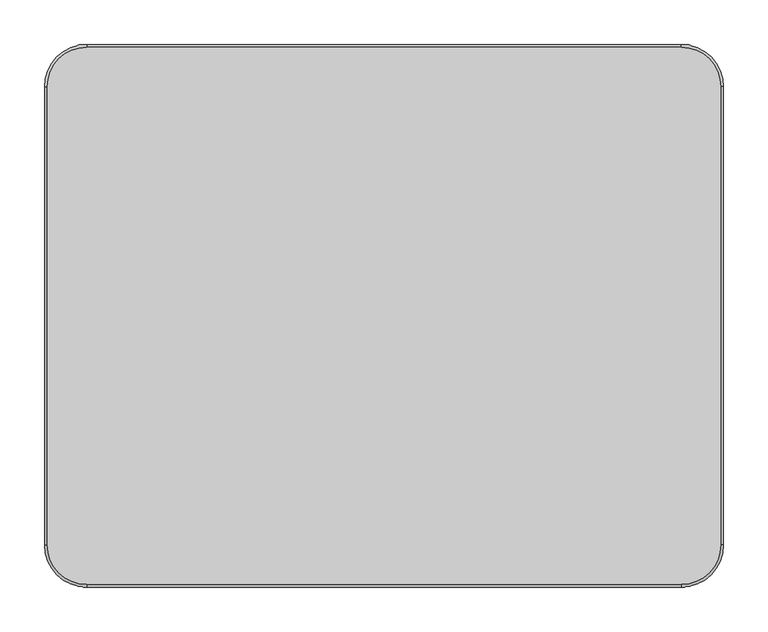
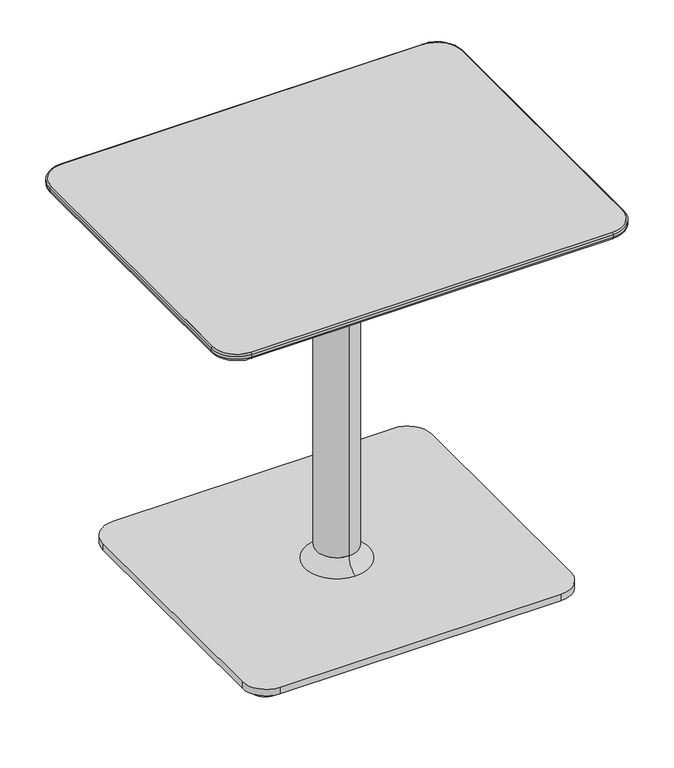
"""IFC4 building model written with IfcOpenShell, lengths in millimetres: furniture geometry, Coalesse_AM_Table_Occasional_Lagunitas_Work : 28.5H x 24D x 30W."""

from ifc_helpers import new_model, si_unit, point, frame, frame_2d, origin, origin_with_axes, place, context, project, spatial, polyline, circle_curve, ellipse_curve, trimmed, segment, composite_curve, outline, extrude, source, transform, mapped, element, save
from ifc_brep_helpers import plane_surface, cylinder_surface, revolved_surface, spline_surface, advanced_brep


def furniture_f20d2360(model_context):
    return source(origin(), model_context, "Body", "SolidModel", [
        advanced_brep(
        [(378.2570059, 257.3038988, 711.8724172), (333.8070059, 301.7538988, 711.8724172), (-333.1969941, 301.7538988, 711.8724172), (-377.6469941, 257.3038988, 711.8724172), (-377.6469941, -257.3038988, 711.8724172), (-333.1969941, -301.7538988, 711.8724172), (333.8070059, -301.7538988, 711.8724172), (378.2570059, -257.3038988, 711.8724172), (310.4389826, 233.9365202, 693.8099277), (310.4389826, -233.9365202, 693.8099277), (-309.8289709, -233.9365202, 693.8099277), (-309.8289709, 233.9365202, 693.8099277)],
        [
            (0, 1, circle_curve(frame((333.8070059, 257.3038988, 711.8724172), z_axis=(0.0, 0.0, 1.0), x_axis=(1.0, 0.0, 0.0)), 44.45)),
            (1, 2),
            (2, 3, circle_curve(frame((-333.1969941, 257.3038988, 711.8724172), z_axis=(0.0, 0.0, 1.0), x_axis=(1.0, 0.0, 0.0)), 44.45)),
            (3, 4),
            (4, 5, circle_curve(frame((-333.1969941, -257.3038988, 711.8724172), z_axis=(0.0, 0.0, 1.0), x_axis=(1.0, 0.0, 0.0)), 44.45)),
            (5, 6),
            (6, 7, circle_curve(frame((333.8070059, -257.3038988, 711.8724172), z_axis=(0.0, 0.0, 1.0), x_axis=(1.0, 0.0, 0.0)), 44.45)),
            (7, 0),
            (8, 9),
            (9, 10),
            (10, 11),
            (11, 8),
            (0, 8),
            (8, 1),
            (11, 2),
            (11, 3),
            (10, 4),
            (10, 5),
            (9, 6),
            (9, 7),
        ],
        [
            plane_surface(frame((0.3050059, 0.0, 711.8724172), z_axis=(0.0, 0.0, 1.0), x_axis=(-1.0, 0.0, 0.0))),
            plane_surface(frame((0.3050059, 0.0, 693.8099277), z_axis=(0.0, 0.0, -1.0), x_axis=(-1.0, 0.0, 0.0))),
            spline_surface(2, 1, [[(310.4389826, 233.9365202, 693.8099277), (378.2570059, 257.3038988, 711.8724172)], [(310.4389826, 233.9365202, 693.8099277), (378.2570059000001, 301.75389880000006, 711.8724172)], [(310.4389826, 233.9365202, 693.8099277), (333.8070059, 301.7538988, 711.8724172)]], [3, 3], [2, 2], [0.0, 1.0], [0.0, 1.0], weights=[[1.0, 1.0], [0.7071067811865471, 0.7071067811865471], [1.0, 1.0]]),
            plane_surface(frame((0.3050059, 233.9365202, 693.8099277), z_axis=(0.0, 0.25736805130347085, -0.9663134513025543), x_axis=(-1.0, 0.0, 0.0))),
            spline_surface(2, 1, [[(-309.8289709, 233.9365202, 693.8099277), (-333.1969941, 301.7538988, 711.8724172)], [(-309.8289709, 233.9365202, 693.8099277), (-377.6469941, 301.7538988, 711.8724172)], [(-309.8289709, 233.9365202, 693.8099277), (-377.6469941, 257.3038988, 711.8724172)]], [3, 3], [2, 2], [0.0, 1.0], [0.0, 1.0], weights=[[1.0, 1.0], [0.7071067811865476, 0.7071067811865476], [1.0, 1.0]]),
            plane_surface(frame((-309.8289709, 0.0, 693.8099277), z_axis=(-0.25736576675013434, 0.0, -0.9663140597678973), x_axis=(0.0, -1.0, 0.0))),
            spline_surface(2, 1, [[(-309.8289709, -233.9365202, 693.8099277), (-377.6469941, -257.3038988, 711.8724172)], [(-309.8289709, -233.9365202, 693.8099277), (-377.6469941, -301.7538988, 711.8724172)], [(-309.8289709, -233.9365202, 693.8099277), (-333.1969941, -301.7538988, 711.8724172)]], [3, 3], [2, 2], [0.0, 1.0], [0.0, 1.0], weights=[[1.0, 1.0], [0.7071067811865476, 0.7071067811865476], [1.0, 1.0]]),
            plane_surface(frame((0.3050059, -233.9365202, 693.8099277), z_axis=(0.0, -0.2573680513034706, -0.9663134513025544), x_axis=(1.0, 0.0, 0.0))),
            spline_surface(2, 1, [[(310.4389826, -233.9365202, 693.8099277), (333.8070059, -301.7538988, 711.8724172)], [(310.4389826, -233.9365202, 693.8099277), (378.25700589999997, -301.75389879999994, 711.8724172)], [(310.4389826, -233.9365202, 693.8099277), (378.2570059, -257.3038988, 711.8724172)]], [3, 3], [2, 2], [0.0, 1.0], [0.0, 1.0], weights=[[1.0, 1.0], [0.707106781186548, 0.707106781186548], [1.0, 1.0]]),
            plane_surface(frame((310.4389826, 0.0, 693.8099277), z_axis=(0.25736576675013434, 0.0, -0.9663140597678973), x_axis=(0.0, 1.0, 0.0))),
        ],
        [
            (0, [[1, 2, 3, 4, 5, 6, 7, 8]]),
            (1, [[9, 10, 11, 12]]),
            (2, [[-1, 13, 14]]),
            (3, [[-12, 15, -2, -14]]),
            (4, [[-3, -15, 16]]),
            (5, [[-11, 17, -4, -16]]),
            (6, [[-5, -17, 18]]),
            (7, [[-10, 19, -6, -18]]),
            (8, [[-7, -19, 20]]),
            (9, [[-9, -13, -8, -20]]),
        ],
    ),
        extrude(outline(composite_curve([segment(trimmed(circle_curve(frame_2d((333.8070059, 257.3038988)), 44.45), [point((333.8070059, 301.7538988))], [point((378.2570059, 257.3038988))], False, "CARTESIAN"), True, "CONTINUOUS"), segment(polyline([(378.2570059, 257.3038988), (378.2570059, -257.3038988)]), True, "CONTINUOUS"), segment(trimmed(circle_curve(frame_2d((333.8070059, -257.3038988)), 44.45), [point((378.2570059, -257.3038988))], [point((333.8070059, -301.7538988))], False, "CARTESIAN"), True, "CONTINUOUS"), segment(polyline([(333.8070059, -301.7538988), (-333.1969941, -301.7538988)]), True, "CONTINUOUS"), segment(trimmed(circle_curve(frame_2d((-333.1969941, -257.3038988)), 44.45), [point((-333.1969941, -301.7538988))], [point((-377.6469941, -257.3038988))], False, "CARTESIAN"), True, "CONTINUOUS"), segment(polyline([(-377.6469941, -257.3038988), (-377.6469941, 257.3038988)]), True, "CONTINUOUS"), segment(trimmed(circle_curve(frame_2d((-333.1969941, 257.3038988)), 44.45), [point((-377.6469941, 257.3038988))], [point((-333.1969941, 301.7538988))], False, "CARTESIAN"), True, "CONTINUOUS"), segment(polyline([(-333.1969941, 301.7538988), (333.8070059, 301.7538988)]), True, "CONTINUOUS")], self_intersect=False)), frame((0.0, 0.0, 711.8724172), z_axis=(0.0, 0.0, 1.0), x_axis=(1.0, 0.0, 0.0)), (0.0, 0.0, 1.0), 12.0275828),
        extrude(outline(composite_curve([segment(trimmed(circle_curve(frame_2d((-263.0703146, 226.8029495)), 25.4), [point((-288.4703146, 226.8029495))], [point((-237.6703146, 226.8029495))], False, "CARTESIAN"), True, "CONTINUOUS"), segment(trimmed(circle_curve(frame_2d((-263.0703146, 226.8029495)), 25.4), [point((-237.6703146, 226.8029495))], [point((-288.4703146, 226.8029495))], False, "CARTESIAN"), True, "CONTINUOUS")], self_intersect=False)), origin_with_axes(), (0.0, 0.0, 1.0), 10.6571495),
        extrude(outline(composite_curve([segment(trimmed(circle_curve(frame_2d((263.6803263, 226.8029495)), 25.4), [point((238.2803263, 226.8029495))], [point((289.0803263, 226.8029495))], False, "CARTESIAN"), True, "CONTINUOUS"), segment(trimmed(circle_curve(frame_2d((263.6803263, 226.8029495)), 25.4), [point((289.0803263, 226.8029495))], [point((238.2803263, 226.8029495))], False, "CARTESIAN"), True, "CONTINUOUS")], self_intersect=False)), origin_with_axes(), (0.0, 0.0, 1.0), 10.6571495),
        extrude(outline(composite_curve([segment(trimmed(circle_curve(frame_2d((263.6803263, -226.8029495)), 25.4), [point((238.2803263, -226.8029495))], [point((289.0803263, -226.8029495))], False, "CARTESIAN"), True, "CONTINUOUS"), segment(trimmed(circle_curve(frame_2d((263.6803263, -226.8029495)), 25.4), [point((289.0803263, -226.8029495))], [point((238.2803263, -226.8029495))], False, "CARTESIAN"), True, "CONTINUOUS")], self_intersect=False)), origin_with_axes(), (0.0, 0.0, 1.0), 10.6571495),
        extrude(outline(composite_curve([segment(trimmed(circle_curve(frame_2d((-263.0703146, -226.8029495)), 25.4), [point((-288.4703146, -226.8029495))], [point((-237.6703146, -226.8029495))], False, "CARTESIAN"), True, "CONTINUOUS"), segment(trimmed(circle_curve(frame_2d((-263.0703146, -226.8029495)), 25.4), [point((-237.6703146, -226.8029495))], [point((-288.4703146, -226.8029495))], False, "CARTESIAN"), True, "CONTINUOUS")], self_intersect=False)), origin_with_axes(), (0.0, 0.0, 1.0), 10.6571495),
        extrude(outline(composite_curve([segment(trimmed(circle_curve(frame_2d((259.1310059, 222.2481833)), 44.45), [point((259.1310059, 266.6981833))], [point((303.5810059, 222.2481833))], False, "CARTESIAN"), True, "CONTINUOUS"), segment(polyline([(303.5810059, 222.2481833), (303.5810059, -222.2481833)]), True, "CONTINUOUS"), segment(trimmed(circle_curve(frame_2d((259.1310059, -222.2481833)), 44.45), [point((303.5810059, -222.2481833))], [point((259.1310059, -266.6981833))], False, "CARTESIAN"), True, "CONTINUOUS"), segment(polyline([(259.1310059, -266.6981833), (-258.5209941, -266.6981833)]), True, "CONTINUOUS"), segment(trimmed(circle_curve(frame_2d((-258.5209941, -222.2481833)), 44.45), [point((-258.5209941, -266.6981833))], [point((-302.9709941, -222.2481833))], False, "CARTESIAN"), True, "CONTINUOUS"), segment(polyline([(-302.9709941, -222.2481833), (-302.9709941, 222.2481833)]), True, "CONTINUOUS"), segment(trimmed(circle_curve(frame_2d((-258.5209941, 222.2481833)), 44.45), [point((-302.9709941, 222.2481833))], [point((-258.5209941, 266.6981833))], False, "CARTESIAN"), True, "CONTINUOUS"), segment(polyline([(-258.5209941, 266.6981833), (259.1310059, 266.6981833)]), True, "CONTINUOUS")], self_intersect=False)), frame((0.0, 0.0, 10.6571495), z_axis=(0.0, 0.0, 1.0), x_axis=(1.0, 0.0, 0.0)), (0.0, 0.0, 1.0), 12.7000004),
        advanced_brep(
        [(-380.6930954, 257.3038988, 715.6656816), (-333.1969941, 304.8, 715.6656816), (-333.1969941, 301.7538988, 711.8724172), (-377.6469941, 257.3038988, 711.8724172), (-380.6930954, 257.3038988, 720.8538988), (-333.1969941, 304.8, 720.8538988), (-377.6469941, 257.3038988, 723.9), (-333.1969941, 301.7538988, 723.9), (-377.6469941, -257.3038988, 711.8724172), (-380.6930954, -257.3038988, 715.6656816), (-380.6930954, -257.3038988, 720.8538988), (-377.6469941, -257.3038988, 723.9), (-333.1969941, -304.8, 715.6656816), (-333.1969941, -301.7538988, 711.8724172), (-333.1969941, -304.8, 720.8538988), (-333.1969941, -301.7538988, 723.9), (333.8070059, -301.7538988, 711.8724172), (333.8070059, -304.8, 715.6656816), (333.8070059, -304.8, 720.8538988), (333.8070059, -301.7538988, 723.9), (381.3031071, -257.3038988, 715.6656816), (378.2570059, -257.3038988, 711.8724172), (381.3031071, -257.3038988, 720.8538988), (378.2570059, -257.3038988, 723.9), (378.2570059, 257.3038988, 711.8724172), (381.3031071, 257.3038988, 715.6656816), (381.3031071, 257.3038988, 720.8538988), (378.2570059, 257.3038988, 723.9), (333.8070059, 304.8, 715.6656816), (333.8070059, 301.7538988, 711.8724172), (333.8070059, 304.8, 720.8538988), (333.8070059, 301.7538988, 723.9)],
        [
            (0, 1, circle_curve(frame((-333.1969941, 257.3038988, 715.6656816), z_axis=(0.0, 0.0, -1.0), x_axis=(0.0, 1.0, 0.0)), 47.4961012)),
            (1, 2, circle_curve(frame((-333.1969941, 300.9151017, 715.6656816), z_axis=(-1.0, 0.0, 0.0), x_axis=(0.0, -1.0, 0.0)), 3.8848983)),
            (2, 3, circle_curve(frame((-333.1969941, 257.3038988, 711.8724172), z_axis=(0.0, 0.0, 1.0), x_axis=(0.0, 1.0, 0.0)), 44.45)),
            (3, 0, circle_curve(frame((-376.8081971, 257.3038988, 715.6656816), z_axis=(0.0, 1.0, 0.0), x_axis=(1.0, 0.0, 0.0)), 3.8848983)),
            (4, 5, circle_curve(frame((-333.1969941, 257.3038988, 720.8538988), z_axis=(0.0, 0.0, -1.0), x_axis=(0.0, 1.0, 0.0)), 47.4961012)),
            (5, 1),
            (0, 4),
            (6, 7, circle_curve(frame((-333.1969941, 257.3038988, 723.9), z_axis=(0.0, 0.0, -1.0), x_axis=(0.0, 1.0, 0.0)), 44.45)),
            (7, 5, circle_curve(frame((-333.1969941, 301.7538988, 720.8538988), z_axis=(-1.0, 0.0, 0.0), x_axis=(0.0, -1.0, 0.0)), 3.0461012)),
            (4, 6, circle_curve(frame((-377.6469941, 257.3038988, 720.8538988), z_axis=(0.0, 1.0, 0.0), x_axis=(1.0, 0.0, 0.0)), 3.0461012)),
            (2, 7),
            (6, 3),
            (3, 8),
            (8, 9, circle_curve(frame((-376.8081971, -257.3038988, 715.6656816), z_axis=(0.0, 1.0, 0.0), x_axis=(1.0, 0.0, 0.0)), 3.8848983)),
            (9, 0),
            (9, 10),
            (10, 4),
            (10, 11, circle_curve(frame((-377.6469941, -257.3038988, 720.8538988), z_axis=(0.0, 1.0, 0.0), x_axis=(1.0, 0.0, 0.0)), 3.0461012)),
            (11, 6),
            (11, 8),
            (12, 9, circle_curve(frame((-333.1969941, -257.3038988, 715.6656816), z_axis=(0.0, 0.0, -1.0), x_axis=(-1.0, 0.0, 0.0)), 47.4961012)),
            (8, 13, circle_curve(frame((-333.1969941, -257.3038988, 711.8724172), z_axis=(0.0, 0.0, 1.0), x_axis=(-1.0, 0.0, 0.0)), 44.45)),
            (13, 12, circle_curve(frame((-333.1969941, -300.9151017, 715.6656816), z_axis=(-1.0, 0.0, 0.0), x_axis=(0.0, 1.0, 0.0)), 3.8848983)),
            (14, 10, circle_curve(frame((-333.1969941, -257.3038988, 720.8538988), z_axis=(0.0, 0.0, -1.0), x_axis=(-1.0, 0.0, 0.0)), 47.4961012)),
            (12, 14),
            (15, 11, circle_curve(frame((-333.1969941, -257.3038988, 723.9), z_axis=(0.0, 0.0, -1.0), x_axis=(-1.0, 0.0, 0.0)), 44.45)),
            (14, 15, circle_curve(frame((-333.1969941, -301.7538988, 720.8538988), z_axis=(-1.0, 0.0, 0.0), x_axis=(0.0, 1.0, 0.0)), 3.0461012)),
            (15, 13),
            (13, 16),
            (16, 17, circle_curve(frame((333.8070059, -300.9151017, 715.6656816), z_axis=(-1.0, 0.0, 0.0), x_axis=(0.0, 1.0, 0.0)), 3.8848983)),
            (17, 12),
            (17, 18),
            (18, 14),
            (18, 19, circle_curve(frame((333.8070059, -301.7538988, 720.8538988), z_axis=(-1.0, 0.0, 0.0), x_axis=(0.0, 1.0, 0.0)), 3.0461012)),
            (19, 15),
            (19, 16),
            (20, 17, circle_curve(frame((333.8070059, -257.3038988, 715.6656816), z_axis=(0.0, 0.0, -1.0), x_axis=(0.0, -1.0, 0.0)), 47.4961012)),
            (16, 21, circle_curve(frame((333.8070059, -257.3038988, 711.8724172), z_axis=(0.0, 0.0, 1.0), x_axis=(0.0, -1.0, 0.0)), 44.45)),
            (21, 20, circle_curve(frame((377.4182088, -257.3038988, 715.6656816), z_axis=(0.0, -1.0, 0.0), x_axis=(-1.0, 0.0, 0.0)), 3.8848983)),
            (22, 18, circle_curve(frame((333.8070059, -257.3038988, 720.8538988), z_axis=(0.0, 0.0, -1.0), x_axis=(0.0, -1.0, 0.0)), 47.4961012)),
            (20, 22),
            (23, 19, circle_curve(frame((333.8070059, -257.3038988, 723.9), z_axis=(0.0, 0.0, -1.0), x_axis=(0.0, -1.0, 0.0)), 44.45)),
            (22, 23, circle_curve(frame((378.2570059, -257.3038988, 720.8538988), z_axis=(0.0, -1.0, 0.0), x_axis=(-1.0, 0.0, 0.0)), 3.0461012)),
            (23, 21),
            (21, 24),
            (24, 25, circle_curve(frame((377.4182088, 257.3038988, 715.6656816), z_axis=(0.0, -1.0, 0.0), x_axis=(-1.0, 0.0, 0.0)), 3.8848983)),
            (25, 20),
            (25, 26),
            (26, 22),
            (26, 27, circle_curve(frame((378.2570059, 257.3038988, 720.8538988), z_axis=(0.0, -1.0, 0.0), x_axis=(-1.0, 0.0, 0.0)), 3.0461012)),
            (27, 23),
            (27, 24),
            (28, 25, circle_curve(frame((333.8070059, 257.3038988, 715.6656816), z_axis=(0.0, 0.0, -1.0), x_axis=(1.0, 0.0, 0.0)), 47.4961012)),
            (24, 29, circle_curve(frame((333.8070059, 257.3038988, 711.8724172), z_axis=(0.0, 0.0, 1.0), x_axis=(1.0, 0.0, 0.0)), 44.45)),
            (29, 28, circle_curve(frame((333.8070059, 300.9151017, 715.6656816), z_axis=(1.0, 0.0, 0.0), x_axis=(0.0, -1.0, 0.0)), 3.8848983)),
            (30, 26, circle_curve(frame((333.8070059, 257.3038988, 720.8538988), z_axis=(0.0, 0.0, -1.0), x_axis=(1.0, 0.0, 0.0)), 47.4961012)),
            (28, 30),
            (31, 27, circle_curve(frame((333.8070059, 257.3038988, 723.9), z_axis=(0.0, 0.0, -1.0), x_axis=(1.0, 0.0, 0.0)), 44.45)),
            (30, 31, circle_curve(frame((333.8070059, 301.7538988, 720.8538988), z_axis=(1.0, 0.0, 0.0), x_axis=(0.0, -1.0, 0.0)), 3.0461012)),
            (31, 29),
            (29, 2),
            (1, 28),
            (5, 30),
            (7, 31),
        ],
        [
            revolved_surface(trimmed(ellipse_curve(frame((-333.1969941, 300.9151017, 715.6656816), z_axis=(1.0, 0.0, 0.0), x_axis=(0.0, -1.0, 0.0)), 3.8848983, 3.8848983), [point((-333.1969941, 301.7538988, 711.8724172))], [point((-333.1969941, 304.8, 715.6656816))], True, "CARTESIAN"), (-333.1969941, 257.3038988, 0.0), (0.0, 0.0, 1.0)),
            cylinder_surface(frame((-333.1969941, 257.3038988, 0.0), z_axis=(0.0, 0.0, 1.0), x_axis=(0.0, 1.0, 0.0)), 47.4961012),
            revolved_surface(trimmed(ellipse_curve(frame((-333.1969941, 301.7538988, 720.8538988), z_axis=(1.0, 0.0, 0.0), x_axis=(0.0, -1.0, 0.0)), 3.0461012, 3.0461012), [point((-333.1969941, 304.8, 720.8538988))], [point((-333.1969941, 301.7538988, 723.9))], True, "CARTESIAN"), (-333.1969941, 257.3038988, 0.0), (0.0, 0.0, 1.0)),
            revolved_surface(polyline([(-333.1969941, 301.7538988, 723.9), (-333.1969941, 301.7538988, 711.8724172)]), (-333.1969941, 257.3038988, 0.0), (0.0, 0.0, 1.0)),
            cylinder_surface(frame((-376.8081971, 257.3038988, 715.6656816), z_axis=(0.0, 1.0, 0.0), x_axis=(1.0, 0.0, 0.0)), 3.8848983),
            plane_surface(frame((-380.6930954, 257.3038988, 715.6656816), z_axis=(-1.0, 0.0, 0.0), x_axis=(0.0, -1.0, 0.0))),
            cylinder_surface(frame((-377.6469941, 257.3038988, 720.8538988), z_axis=(0.0, 1.0, 0.0), x_axis=(1.0, 0.0, 0.0)), 3.0461012),
            plane_surface(frame((-377.6469941, 257.3038988, 723.9), z_axis=(1.0, 0.0, 0.0), x_axis=(0.0, -1.0, 0.0))),
            revolved_surface(trimmed(ellipse_curve(frame((-376.8081971, -257.3038988, 715.6656816), z_axis=(0.0, 1.0, 0.0), x_axis=(1.0, 0.0, 0.0)), 3.8848983, 3.8848983), [point((-377.6469941, -257.3038988, 711.8724172))], [point((-380.6930954, -257.3038988, 715.6656816))], True, "CARTESIAN"), (-333.1969941, -257.3038988, 0.0), (0.0, 0.0, 1.0)),
            cylinder_surface(frame((-333.1969941, -257.3038988, 0.0), z_axis=(0.0, 0.0, 1.0), x_axis=(-1.0, 0.0, 0.0)), 47.4961012),
            revolved_surface(trimmed(ellipse_curve(frame((-377.6469941, -257.3038988, 720.8538988), z_axis=(0.0, 1.0, 0.0), x_axis=(1.0, 0.0, 0.0)), 3.0461012, 3.0461012), [point((-380.6930954, -257.3038988, 720.8538988))], [point((-377.6469941, -257.3038988, 723.9))], True, "CARTESIAN"), (-333.1969941, -257.3038988, 0.0), (0.0, 0.0, 1.0)),
            revolved_surface(polyline([(-377.6469941, -257.3038988, 723.9), (-377.6469941, -257.3038988, 711.8724172)]), (-333.1969941, -257.3038988, 0.0), (0.0, 0.0, 1.0)),
            cylinder_surface(frame((-333.1969941, -300.9151017, 715.6656816), z_axis=(-1.0, 0.0, 0.0), x_axis=(0.0, 1.0, 0.0)), 3.8848983),
            plane_surface(frame((-333.1969941, -304.8, 715.6656816), z_axis=(0.0, -1.0, 0.0), x_axis=(1.0, 0.0, 0.0))),
            cylinder_surface(frame((-333.1969941, -301.7538988, 720.8538988), z_axis=(-1.0, 0.0, 0.0), x_axis=(0.0, 1.0, 0.0)), 3.0461012),
            plane_surface(frame((-333.1969941, -301.7538988, 723.9), z_axis=(0.0, 1.0, 0.0), x_axis=(1.0, 0.0, 0.0))),
            revolved_surface(trimmed(ellipse_curve(frame((333.8070059, -300.9151017, 715.6656816), z_axis=(-1.0, 0.0, 0.0), x_axis=(0.0, 1.0, 0.0)), 3.8848983, 3.8848983), [point((333.8070059, -301.7538988, 711.8724172))], [point((333.8070059, -304.8, 715.6656816))], True, "CARTESIAN"), (333.8070059, -257.3038988, 0.0), (0.0, 0.0, 1.0)),
            cylinder_surface(frame((333.8070059, -257.3038988, 0.0), z_axis=(0.0, 0.0, 1.0), x_axis=(0.0, -1.0, 0.0)), 47.4961012),
            revolved_surface(trimmed(ellipse_curve(frame((333.8070059, -301.7538988, 720.8538988), z_axis=(-1.0, 0.0, 0.0), x_axis=(0.0, 1.0, 0.0)), 3.0461012, 3.0461012), [point((333.8070059, -304.8, 720.8538988))], [point((333.8070059, -301.7538988, 723.9))], True, "CARTESIAN"), (333.8070059, -257.3038988, 0.0), (0.0, 0.0, 1.0)),
            revolved_surface(polyline([(333.8070059, -301.7538988, 723.9), (333.8070059, -301.7538988, 711.8724172)]), (333.8070059, -257.3038988, 0.0), (0.0, 0.0, 1.0)),
            cylinder_surface(frame((377.4182088, -257.3038988, 715.6656816), z_axis=(0.0, -1.0, 0.0), x_axis=(-1.0, 0.0, 0.0)), 3.8848983),
            plane_surface(frame((381.3031071, -257.3038988, 715.6656816), z_axis=(1.0, 0.0, 0.0), x_axis=(0.0, 1.0, 0.0))),
            cylinder_surface(frame((378.2570059, -257.3038988, 720.8538988), z_axis=(0.0, -1.0, 0.0), x_axis=(-1.0, 0.0, 0.0)), 3.0461012),
            plane_surface(frame((378.2570059, -257.3038988, 723.9), z_axis=(-1.0, 0.0, 0.0), x_axis=(0.0, 1.0, 0.0))),
            revolved_surface(trimmed(ellipse_curve(frame((377.4182088, 257.3038988, 715.6656816), z_axis=(0.0, -1.0, 0.0), x_axis=(-1.0, 0.0, 0.0)), 3.8848983, 3.8848983), [point((378.2570059, 257.3038988, 711.8724172))], [point((381.3031071, 257.3038988, 715.6656816))], True, "CARTESIAN"), (333.8070059, 257.3038988, 0.0), (0.0, 0.0, 1.0)),
            cylinder_surface(frame((333.8070059, 257.3038988, 0.0), z_axis=(0.0, 0.0, 1.0), x_axis=(1.0, 0.0, 0.0)), 47.4961012),
            revolved_surface(trimmed(ellipse_curve(frame((378.2570059, 257.3038988, 720.8538988), z_axis=(0.0, -1.0, 0.0), x_axis=(-1.0, 0.0, 0.0)), 3.0461012, 3.0461012), [point((381.3031071, 257.3038988, 720.8538988))], [point((378.2570059, 257.3038988, 723.9))], True, "CARTESIAN"), (333.8070059, 257.3038988, 0.0), (0.0, 0.0, 1.0)),
            revolved_surface(polyline([(378.25700589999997, 257.3038988, 723.9), (378.25700589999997, 257.3038988, 711.8724172)]), (333.8070059, 257.3038988, 0.0), (0.0, 0.0, 1.0)),
            cylinder_surface(frame((333.8070059, 300.9151017, 715.6656816), z_axis=(1.0, 0.0, 0.0), x_axis=(0.0, -1.0, 0.0)), 3.8848983),
            plane_surface(frame((333.8070059, 304.8, 715.6656816), z_axis=(0.0, 1.0, 0.0), x_axis=(-1.0, 0.0, 0.0))),
            cylinder_surface(frame((333.8070059, 301.7538988, 720.8538988), z_axis=(1.0, 0.0, 0.0), x_axis=(0.0, -1.0, 0.0)), 3.0461012),
            plane_surface(frame((333.8070059, 301.7538988, 723.9), z_axis=(0.0, -1.0, 0.0), x_axis=(-1.0, 0.0, 0.0))),
        ],
        [
            (0, [[1, 2, 3, 4]]),
            (1, [[5, 6, -1, 7]]),
            (2, [[8, 9, -5, 10]]),
            (3, [[-3, 11, -8, 12]]),
            (4, [[-4, 13, 14, 15]]),
            (5, [[-7, -15, 16, 17]]),
            (6, [[-10, -17, 18, 19]]),
            (7, [[-12, -19, 20, -13]]),
            (8, [[21, -14, 22, 23]]),
            (9, [[24, -16, -21, 25]]),
            (10, [[26, -18, -24, 27]]),
            (11, [[-22, -20, -26, 28]]),
            (12, [[-23, 29, 30, 31]]),
            (13, [[-25, -31, 32, 33]]),
            (14, [[-27, -33, 34, 35]]),
            (15, [[-28, -35, 36, -29]]),
            (16, [[37, -30, 38, 39]]),
            (17, [[40, -32, -37, 41]]),
            (18, [[42, -34, -40, 43]]),
            (19, [[-38, -36, -42, 44]]),
            (20, [[-39, 45, 46, 47]]),
            (21, [[-41, -47, 48, 49]]),
            (22, [[-43, -49, 50, 51]]),
            (23, [[-44, -51, 52, -45]]),
            (24, [[53, -46, 54, 55]]),
            (25, [[56, -48, -53, 57]]),
            (26, [[58, -50, -56, 59]]),
            (27, [[-54, -52, -58, 60]]),
            (28, [[-55, 61, -2, 62]]),
            (29, [[-57, -62, -6, 63]]),
            (30, [[-59, -63, -9, 64]]),
            (31, [[-60, -64, -11, -61]]),
        ],
    ),
        advanced_brep(
        [(0.3050059, -37.9287895, 564.3567695), (0.3050059, 37.9287895, 564.3567695), (0.3050059, 37.9287895, 50.0429711), (0.3050059, -37.9287895, 50.0429711), (0.3050059, -59.3395816, 602.3698908), (0.3050059, 59.3395816, 602.3698908), (0.3050059, -197.9068019, 686.3534968), (0.3050059, 197.9068019, 686.3534968), (0.3050059, -212.4265152, 690.4101307), (0.3050059, 212.4265152, 690.4101307), (0.3050059, -226.4292749, 690.4101307), (0.3050059, 226.4292749, 690.4101307), (0.3050059, -228.4774392, 693.8099277), (0.3050059, 228.4774392, 693.8099277), (0.3050059, 0.0, 693.8099277), (0.3050059, -60.2304855, 23.3571499), (0.3050059, 60.2304855, 23.3571499), (0.3050059, 0.0, 23.3571499)],
        [
            (0, 1, circle_curve(frame((0.3050059, 0.0, 564.3567695), z_axis=(0.0, 0.0, -1.0), x_axis=(0.0, 1.0, 0.0)), 37.9287895)),
            (1, 2),
            (2, 3, circle_curve(frame((0.3050059, 0.0, 50.0429711), z_axis=(0.0, 0.0, 1.0), x_axis=(0.0, 1.0, 0.0)), 37.9287895)),
            (3, 0),
            (1, 0, circle_curve(frame((0.3050059, 0.0, 564.3567695), z_axis=(0.0, 0.0, -1.0), x_axis=(0.0, 1.0, 0.0)), 37.9287895)),
            (3, 2, circle_curve(frame((0.3050059, 0.0, 50.0429711), z_axis=(0.0, 0.0, 1.0), x_axis=(0.0, 1.0, 0.0)), 37.9287895)),
            (4, 5, circle_curve(frame((0.3050059, 0.0, 602.3698908), z_axis=(0.0, 0.0, -1.0), x_axis=(0.0, 1.0, 0.0)), 59.3395816)),
            (5, 1, circle_curve(frame((0.3050059, 82.3787895, 564.3567695), z_axis=(1.0, 0.0, 0.0), x_axis=(0.0, 1.0, 0.0)), 44.45)),
            (0, 4, circle_curve(frame((0.3050059, -82.3787895, 564.3567695), z_axis=(1.0, 0.0, 0.0), x_axis=(0.0, -1.0, 0.0)), 44.45)),
            (5, 4, circle_curve(frame((0.3050059, 0.0, 602.3698908), z_axis=(0.0, 0.0, -1.0), x_axis=(0.0, 1.0, 0.0)), 59.3395816)),
            (6, 7, circle_curve(frame((0.3050059, 0.0, 686.3534968), z_axis=(0.0, 0.0, -1.0), x_axis=(0.0, 1.0, 0.0)), 197.9068019)),
            (7, 5),
            (4, 6),
            (7, 6, circle_curve(frame((0.3050059, 0.0, 686.3534968), z_axis=(0.0, 0.0, -1.0), x_axis=(0.0, 1.0, 0.0)), 197.9068019)),
            (8, 9, circle_curve(frame((0.3050059, 0.0, 690.4101307), z_axis=(0.0, 0.0, -1.0), x_axis=(0.0, 1.0, 0.0)), 212.4265152)),
            (9, 7, circle_curve(frame((0.3050059, 212.4265152, 662.3969605), z_axis=(1.0, 0.0, 0.0), x_axis=(0.0, 1.0, 0.0)), 28.0131702)),
            (6, 8, circle_curve(frame((0.3050059, -212.4265152, 662.3969605), z_axis=(1.0, 0.0, 0.0), x_axis=(0.0, -1.0, 0.0)), 28.0131702)),
            (9, 8, circle_curve(frame((0.3050059, 0.0, 690.4101307), z_axis=(0.0, 0.0, -1.0), x_axis=(0.0, 1.0, 0.0)), 212.4265152)),
            (10, 11, circle_curve(frame((0.3050059, 0.0, 690.4101307), z_axis=(0.0, 0.0, -1.0), x_axis=(0.0, 1.0, 0.0)), 226.4292749)),
            (11, 9),
            (8, 10),
            (11, 10, circle_curve(frame((0.3050059, 0.0, 690.4101307), z_axis=(0.0, 0.0, -1.0), x_axis=(0.0, 1.0, 0.0)), 226.4292749)),
            (12, 13, circle_curve(frame((0.3050059, 0.0, 693.8099277), z_axis=(0.0, 0.0, -1.0), x_axis=(0.0, 1.0, 0.0)), 228.4774392)),
            (13, 11, circle_curve(frame((0.3050059, 226.4292749, 692.7269744), z_axis=(-1.0, 0.0, 0.0), x_axis=(0.0, 1.0, 0.0)), 2.3168437)),
            (10, 12, circle_curve(frame((0.3050059, -226.4292749, 692.7269744), z_axis=(-1.0, 0.0, 0.0), x_axis=(0.0, -1.0, 0.0)), 2.3168437)),
            (13, 12, circle_curve(frame((0.3050059, 0.0, 693.8099277), z_axis=(0.0, 0.0, -1.0), x_axis=(0.0, 1.0, 0.0)), 228.4774392)),
            (14, 13),
            (12, 14),
            (15, 16, circle_curve(frame((0.3050059, 0.0, 23.3571499), z_axis=(0.0, 0.0, -1.0), x_axis=(0.0, 1.0, 0.0)), 60.2304855)),
            (16, 17),
            (17, 15),
            (16, 15, circle_curve(frame((0.3050059, 0.0, 23.3571499), z_axis=(0.0, 0.0, -1.0), x_axis=(0.0, 1.0, 0.0)), 60.2304855)),
            (2, 16, circle_curve(frame((0.3050059, 65.045532, 50.0429711), z_axis=(1.0, 0.0, 0.0), x_axis=(0.0, 1.0, 0.0)), 27.1167425)),
            (15, 3, circle_curve(frame((0.3050059, -65.045532, 50.0429711), z_axis=(1.0, 0.0, 0.0), x_axis=(0.0, -1.0, 0.0)), 27.1167425)),
        ],
        [
            cylinder_surface(frame((0.3050059, 0.0, 801.7745102), z_axis=(0.0, 0.0, 1.0), x_axis=(0.0, 1.0, 0.0)), 37.9287895),
            revolved_surface(trimmed(ellipse_curve(frame((0.3050059, 82.3787895, 564.3567695), z_axis=(-1.0, 0.0, 0.0), x_axis=(0.0, 1.0, 0.0)), 44.45, 44.45), [point((0.3050059, 37.9287895, 564.3567695))], [point((0.3050059, 59.3395816, 602.3698908))], True, "CARTESIAN"), (0.3050059, 0.0, 801.7745102), (0.0, 0.0, 1.0)),
            revolved_surface(polyline([(0.3050059, 59.3395816, 602.3698908), (0.3050059, 197.9068019, 686.3534968)]), (0.3050059, 0.0, 801.7745102), (0.0, 0.0, 1.0)),
            revolved_surface(trimmed(ellipse_curve(frame((0.3050059, 212.4265152, 662.3969605), z_axis=(-1.0, 0.0, 0.0), x_axis=(0.0, 1.0, 0.0)), 28.0131702, 28.0131702), [point((0.3050059, 197.9068019, 686.3534968))], [point((0.3050059, 212.4265152, 690.4101307))], True, "CARTESIAN"), (0.3050059, 0.0, 801.7745102), (0.0, 0.0, 1.0)),
            plane_surface(frame((0.3050059, 0.0, 690.4101307), z_axis=(0.0, 0.0, -1.0), x_axis=(0.0, 1.0, 0.0))),
            revolved_surface(trimmed(ellipse_curve(frame((0.3050059, 226.4292749, 692.7269744), z_axis=(1.0, 0.0, 0.0), x_axis=(0.0, 1.0, 0.0)), 2.3168437, 2.3168437), [point((0.3050059, 226.4292749, 690.4101307))], [point((0.3050059, 228.4774392, 693.8099277))], True, "CARTESIAN"), (0.3050059, 0.0, 801.7745102), (0.0, 0.0, 1.0)),
            plane_surface(frame((0.3050059, 0.0, 693.8099277), z_axis=(0.0, 0.0, 1.0), x_axis=(0.0, 1.0, 0.0))),
            plane_surface(frame((0.3050059, 0.0, 23.3571499), z_axis=(0.0, 0.0, -1.0), x_axis=(0.0, 1.0, 0.0))),
            revolved_surface(trimmed(ellipse_curve(frame((0.3050059, 65.045532, 50.0429711), z_axis=(-1.0, 0.0, 0.0), x_axis=(0.0, 1.0, 0.0)), 27.1167425, 27.1167425), [point((0.3050059, 60.2304855, 23.3571499))], [point((0.3050059, 37.9287895, 50.0429711))], True, "CARTESIAN"), (0.3050059, 0.0, 801.7745102), (0.0, 0.0, 1.0)),
        ],
        [
            (0, [[1, 2, 3, 4]]),
            (0, [[5, -4, 6, -2]]),
            (1, [[7, 8, -1, 9]]),
            (1, [[10, -9, -5, -8]]),
            (2, [[11, 12, -7, 13]]),
            (2, [[14, -13, -10, -12]]),
            (3, [[15, 16, -11, 17]]),
            (3, [[18, -17, -14, -16]]),
            (4, [[19, 20, -15, 21]]),
            (4, [[22, -21, -18, -20]]),
            (5, [[23, 24, -19, 25]]),
            (5, [[26, -25, -22, -24]]),
            (6, [[27, -23, 28]]),
            (6, [[-28, -26, -27]]),
            (7, [[29, 30, 31]]),
            (7, [[32, -31, -30]]),
            (8, [[-3, 33, -29, 34]]),
            (8, [[-6, -34, -32, -33]]),
        ],
    ),
    ])


if __name__ == "__main__":
    model = new_model("IFC4")
    model_context = context("Model", 3, world=origin())
    ifc_project = project(units=[si_unit("LENGTHUNIT", "METRE", prefix="MILLI")], contexts=[model_context])
    site = spatial("IfcSite", under=ifc_project)
    building = spatial("IfcBuilding", under=site)
    placement = place(None, origin())
    furniture_shape = furniture_f20d2360(model_context)
    element("IfcFurniture", 1, ObjectType="Coalesse_AM_Table_Occasional_Lagunitas_Work : 28.5H x 24D x 30W", at=placement, inside=building, context=model_context, shape_type="MappedRepresentation", body=[
        mapped(furniture_shape, transform((0.0, 0.0, 0.0), x_axis=(1.0, 0.0, 0.0), y_axis=(0.0, 1.0, 0.0), z_axis=(0.0, 0.0, 1.0))),
    ])
    save(model, "model.ifc")
